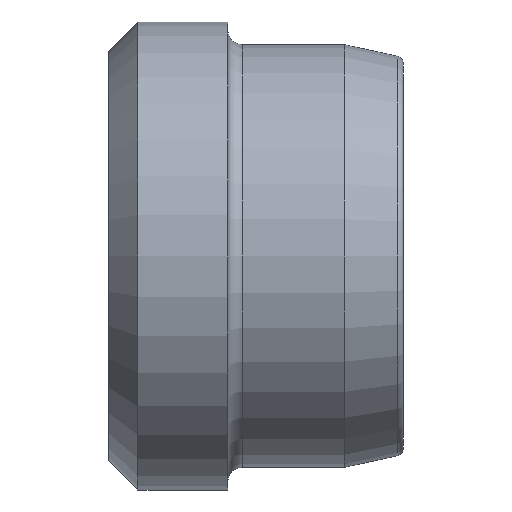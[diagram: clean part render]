
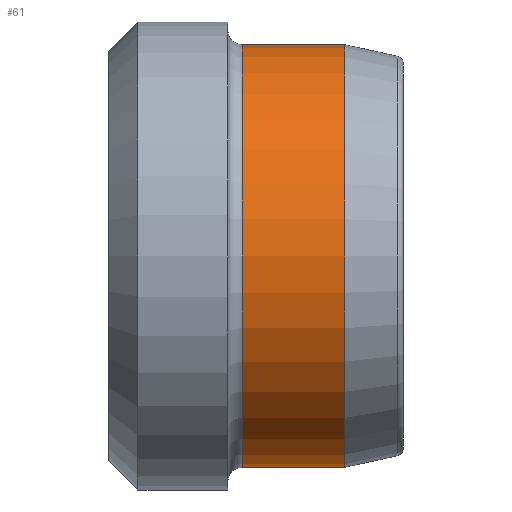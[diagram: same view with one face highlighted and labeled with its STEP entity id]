
A CAD part, front view. The second image highlights one B-rep face of the part: STEP entity #61.
In plain terms, the highlighted cylindrical face has radius 7.225 mm (diameter 14.45 mm), a full revolution.
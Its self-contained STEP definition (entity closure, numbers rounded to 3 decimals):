
#61 = ADVANCED_FACE( '', ( #130, #131 ), #132, .T. );
#130 = FACE_OUTER_BOUND( '', #231, .T. );
#131 = FACE_OUTER_BOUND( '', #232, .T. );
#132 = CYLINDRICAL_SURFACE( '', #233, 7.225 );
#231 = EDGE_LOOP( '', ( #311 ) );
#232 = EDGE_LOOP( '', ( #312 ) );
#233 = AXIS2_PLACEMENT_3D( '', #313, #314, #315 );
#311 = ORIENTED_EDGE( '', *, *, #341, .F. );
#312 = ORIENTED_EDGE( '', *, *, #335, .F. );
#313 = CARTESIAN_POINT( '', ( 0.75, -1.633, 0. ) );
#314 = DIRECTION( '', ( -1., 0., 0. ) );
#315 = DIRECTION( '', ( 0., 1., 0. ) );
#335 = EDGE_CURVE( '', #365, #365, #366, .T. );
#341 = EDGE_CURVE( '', #375, #375, #376, .T. );
#365 = VERTEX_POINT( '', #410 );
#366 = CIRCLE( '', #411, 7.225 );
#375 = VERTEX_POINT( '', #420 );
#376 = CIRCLE( '', #421, 7.225 );
#410 = CARTESIAN_POINT( '', ( 2.75, 5.592, 0. ) );
#411 = AXIS2_PLACEMENT_3D( '', #454, #455, #456 );
#420 = CARTESIAN_POINT( '', ( -0.75, -8.858, 0. ) );
#421 = AXIS2_PLACEMENT_3D( '', #466, #467, #468 );
#454 = CARTESIAN_POINT( '', ( 2.75, -1.633, 0. ) );
#455 = DIRECTION( '', ( 1., 0., 0. ) );
#456 = DIRECTION( '', ( 0., 1., 0. ) );
#466 = CARTESIAN_POINT( '', ( -0.75, -1.633, 0. ) );
#467 = DIRECTION( '', ( -1., 0., 0. ) );
#468 = DIRECTION( '', ( 0., -1., 0. ) );
